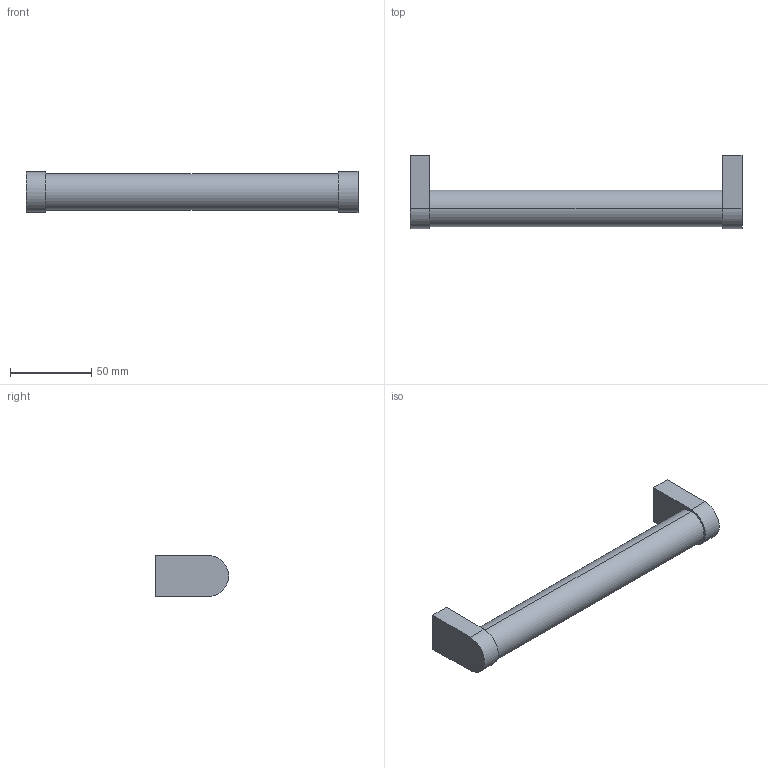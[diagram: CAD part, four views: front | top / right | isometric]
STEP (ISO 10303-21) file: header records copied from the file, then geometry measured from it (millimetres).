
FILE_DESCRIPTION( ( '' ), '1' );
FILE_NAME( 'C:/Documents and Settings/Sachin/Desktop/Sheet 10_1/stp/115077.stp', '2013-10-22T11:10:28', ( '' ), ( '' ), ' ', ' ', ' ' );
FILE_SCHEMA( ( 'CONFIG_CONTROL_DESIGN' ) );
Length unit declared in the file: millimetre
Products named in the file (1): 1
Bounding box: 204 x 45 x 25.68 mm (x, y, z)
Volume: 96340.4 mm3; surface area: 19525.2 mm2
Topology: 1 solids, 1 shells, 20 faces, 42 edges, 28 vertices
Faces by surface type: plane 12, cylinder 8
Entity records: 586 total; most frequent: DIRECTION 100, CARTESIAN_POINT 91, ORIENTED_EDGE 84, EDGE_CURVE 42, AXIS2_PLACEMENT_3D 37, VERTEX_POINT 28, LINE 26, VECTOR 26
